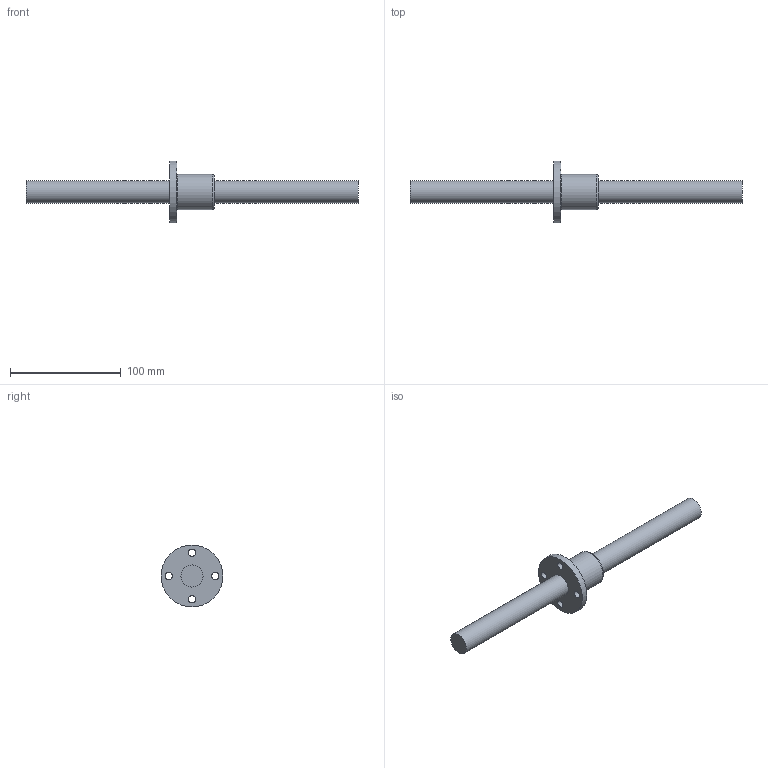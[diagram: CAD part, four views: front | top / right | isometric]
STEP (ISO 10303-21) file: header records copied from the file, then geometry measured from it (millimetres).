
FILE_DESCRIPTION((''),'2;1');
FILE_NAME('D:\製品 (図面)\カタログ用3D\ネジ関連\STEP形式\TMF\TMF20.stp','2010-06-02T14:59:08',('Tsuchiya'),(''),'Autodesk Inventor 10','Autodesk Inventor 10','');
FILE_SCHEMA(('AUTOMOTIVE_DESIGN { 1 0 10303 214 1 1 1 1 }'));
Length unit declared in the file: millimetre
Products named in the file (3): TMF20; TMF201; TMF202
Assembly tree (2 placements, depth 2):
  TMF20
    TMF201
    TMF202
Bounding box: 300 x 56 x 56 mm (x, y, z)
Volume: 122940.6 mm3; surface area: 30899.2 mm2
Topology: 2 solids, 2 shells, 15 faces, 32 edges, 22 vertices
Faces by surface type: cylinder 8, plane 5, torus 1, bspline 1
Full cylindrical faces by diameter (mm): 6.6 x4, 20 x2, 32 x1, 56 x1
Entity records: 470 total; most frequent: CARTESIAN_POINT 100, DIRECTION 74, AXIS2_PLACEMENT_3D 37, ORIENTED_EDGE 36, EDGE_LOOP 36, FACE_BOUND 21, VERTEX_POINT 18, CIRCLE 18
